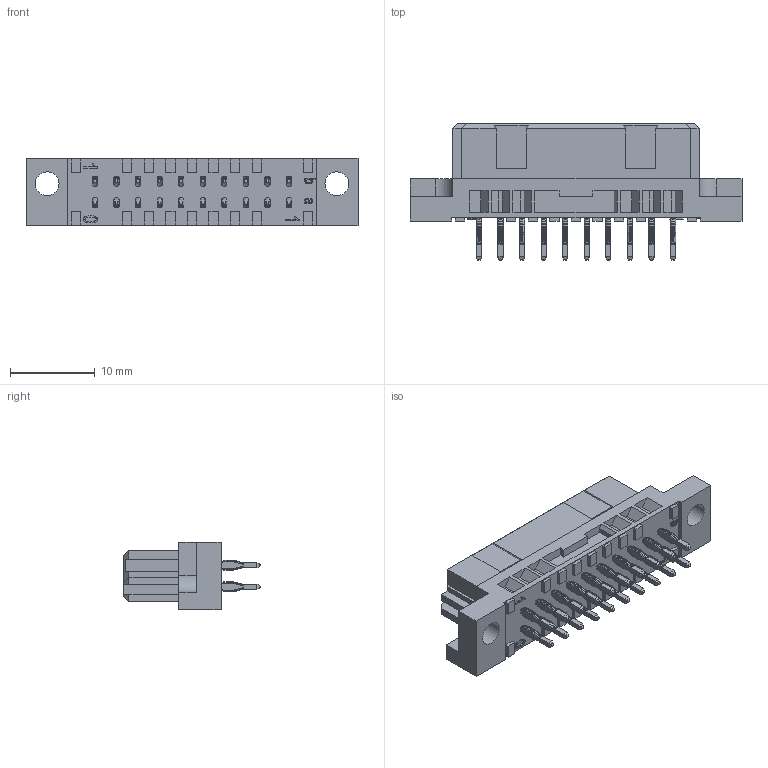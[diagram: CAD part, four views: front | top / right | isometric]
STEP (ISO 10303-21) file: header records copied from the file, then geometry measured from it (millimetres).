
FILE_DESCRIPTION (( 'STEP AP214' ), '1' );
FILE_NAME ('102-68014-XX.STEP', '2011-09-05T05:51:51', ( 'ept' ), ( 'ept GmbH' ), 'SwSTEP 2.0', 'SolidWorks 2010', '' );
FILE_SCHEMA (( 'AUTOMOTIVE_DESIGN' ));
Length unit declared in the file: millimetre
Products named in the file (1): 102-68014-XX
Bounding box: 39.1 x 16.05 x 8 mm (x, y, z)
Volume: 2268.3 mm3; surface area: 2066.7 mm2
Topology: 1 solids, 1 shells, 2916 faces, 7116 edges, 4288 vertices
Faces by surface type: torus 1120, plane 955, cylinder 784, bspline 57
Full cylindrical faces by diameter (mm): 2.8 x2
Entity records: 121734 total; most frequent: CARTESIAN_POINT 20200, DIRECTION 15608, ORIENTED_EDGE 14228, EDGE_CURVE 7114, AXIS2_PLACEMENT_3D 6348, VERTEX_POINT 4288, CIRCLE 3488, EDGE_LOOP 3008
